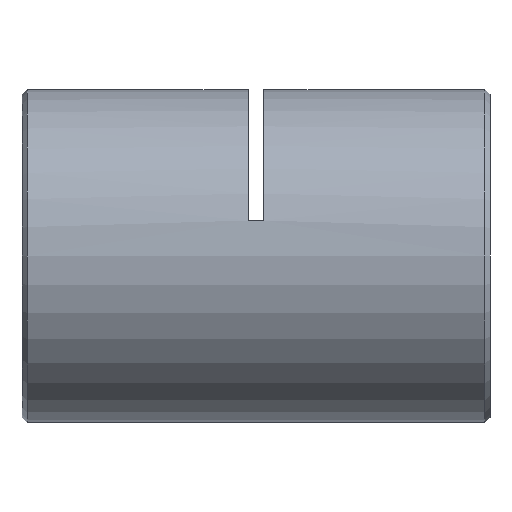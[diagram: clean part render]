
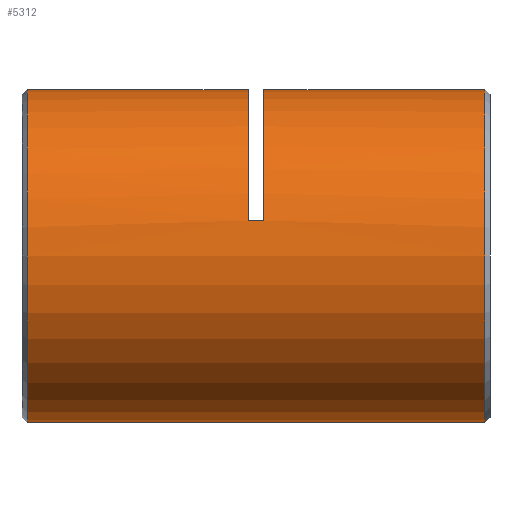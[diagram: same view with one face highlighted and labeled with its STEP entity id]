
A CAD part, left-side view. The second image highlights one B-rep face of the part: STEP entity #5312.
In plain terms, the highlighted cylindrical face has radius 16 mm (diameter 32 mm), a partial arc.
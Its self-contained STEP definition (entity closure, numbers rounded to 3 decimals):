
#12 = CARTESIAN_POINT ( 'NONE',  ( 0., 0.75, 0. ) ) ;
#193 = VECTOR ( 'NONE', #4577, 1000. ) ;
#409 = ORIENTED_EDGE ( 'NONE', *, *, #4160, .T. ) ;
#427 = CIRCLE ( 'NONE', #4013, 16. ) ;
#582 = CARTESIAN_POINT ( 'NONE',  ( 0., 23.5, 0. ) ) ;
#602 = VERTEX_POINT ( 'NONE', #4469 ) ;
#822 = CARTESIAN_POINT ( 'NONE',  ( 0., 0., 0. ) ) ;
#914 = ORIENTED_EDGE ( 'NONE', *, *, #4465, .T. ) ;
#927 = CARTESIAN_POINT ( 'NONE',  ( -15.632, 22.75, 3.413 ) ) ;
#969 = VERTEX_POINT ( 'NONE', #5789 ) ;
#983 = DIRECTION ( 'NONE',  ( 0., 1., 0. ) ) ;
#993 = AXIS2_PLACEMENT_3D ( 'NONE', #12, #3927, #1082 ) ;
#1026 = EDGE_CURVE ( 'NONE', #3213, #3868, #3971, .T. ) ;
#1082 = DIRECTION ( 'NONE',  ( 0., 0., 1. ) ) ;
#1122 = CARTESIAN_POINT ( 'NONE',  ( 0., 0., -16. ) ) ;
#1217 = ORIENTED_EDGE ( 'NONE', *, *, #1026, .F. ) ;
#1226 = EDGE_CURVE ( 'NONE', #969, #2057, #4385, .T. ) ;
#1297 = CARTESIAN_POINT ( 'NONE',  ( 0., 22., 0. ) ) ;
#1324 = DIRECTION ( 'NONE',  ( 0., 1., 0. ) ) ;
#1594 = LINE ( 'NONE', #1122, #193 ) ;
#1606 = VERTEX_POINT ( 'NONE', #3238 ) ;
#1641 = CARTESIAN_POINT ( 'NONE',  ( 0., 22., 16. ) ) ;
#1679 = EDGE_LOOP ( 'NONE', ( #4082, #3734, #4020, #1217, #4227, #2363, #914, #409 ) ) ;
#1695 = LINE ( 'NONE', #2805, #4978 ) ;
#1742 = DIRECTION ( 'NONE',  ( 0., 0., 1. ) ) ;
#1767 = AXIS2_PLACEMENT_3D ( 'NONE', #822, #5245, #1742 ) ;
#1778 = FACE_OUTER_BOUND ( 'NONE', #1679, .T. ) ;
#1801 = DIRECTION ( 'NONE',  ( 0., 1., 0. ) ) ;
#1860 = VECTOR ( 'NONE', #5963, 1000. ) ;
#1868 = LINE ( 'NONE', #3965, #1860 ) ;
#1876 = CIRCLE ( 'NONE', #3621, 16. ) ;
#1980 = DIRECTION ( 'NONE',  ( 0., -1., 0. ) ) ;
#2006 = VERTEX_POINT ( 'NONE', #3691 ) ;
#2057 = VERTEX_POINT ( 'NONE', #5161 ) ;
#2105 = AXIS2_PLACEMENT_3D ( 'NONE', #1297, #1801, #2834 ) ;
#2363 = ORIENTED_EDGE ( 'NONE', *, *, #5665, .T. ) ;
#2423 = VERTEX_POINT ( 'NONE', #4735 ) ;
#2664 = DIRECTION ( 'NONE',  ( 0., 1., 0. ) ) ;
#2735 = CARTESIAN_POINT ( 'NONE',  ( -15.632, 22., 3.413 ) ) ;
#2805 = CARTESIAN_POINT ( 'NONE',  ( 0., 0., 16. ) ) ;
#2834 = DIRECTION ( 'NONE',  ( 0., 0., 1. ) ) ;
#2910 = LINE ( 'NONE', #927, #6311 ) ;
#3075 = DIRECTION ( 'NONE',  ( 0., 0., 1. ) ) ;
#3162 = EDGE_CURVE ( 'NONE', #969, #602, #1594, .T. ) ;
#3213 = VERTEX_POINT ( 'NONE', #2735 ) ;
#3238 = CARTESIAN_POINT ( 'NONE',  ( -15.632, 23.5, 3.413 ) ) ;
#3621 = AXIS2_PLACEMENT_3D ( 'NONE', #582, #2664, #3075 ) ;
#3691 = CARTESIAN_POINT ( 'NONE',  ( 0., 23.5, 16. ) ) ;
#3734 = ORIENTED_EDGE ( 'NONE', *, *, #1226, .T. ) ;
#3868 = VERTEX_POINT ( 'NONE', #1641 ) ;
#3927 = DIRECTION ( 'NONE',  ( 0., 1., 0. ) ) ;
#3965 = CARTESIAN_POINT ( 'NONE',  ( 0., 0., 16. ) ) ;
#3971 = CIRCLE ( 'NONE', #2105, 16. ) ;
#4013 = AXIS2_PLACEMENT_3D ( 'NONE', #4463, #1980, #5972 ) ;
#4020 = ORIENTED_EDGE ( 'NONE', *, *, #5730, .T. ) ;
#4082 = ORIENTED_EDGE ( 'NONE', *, *, #3162, .F. ) ;
#4103 = EDGE_CURVE ( 'NONE', #3213, #1606, #2910, .T. ) ;
#4160 = EDGE_CURVE ( 'NONE', #2423, #602, #427, .T. ) ;
#4227 = ORIENTED_EDGE ( 'NONE', *, *, #4103, .T. ) ;
#4385 = CIRCLE ( 'NONE', #993, 16. ) ;
#4463 = CARTESIAN_POINT ( 'NONE',  ( 0., 44.75, 0. ) ) ;
#4465 = EDGE_CURVE ( 'NONE', #2006, #2423, #1868, .T. ) ;
#4469 = CARTESIAN_POINT ( 'NONE',  ( 0., 44.75, -16. ) ) ;
#4577 = DIRECTION ( 'NONE',  ( 0., 1., 0. ) ) ;
#4735 = CARTESIAN_POINT ( 'NONE',  ( 0., 44.75, 16. ) ) ;
#4978 = VECTOR ( 'NONE', #1324, 1000. ) ;
#5161 = CARTESIAN_POINT ( 'NONE',  ( 0., 0.75, 16. ) ) ;
#5245 = DIRECTION ( 'NONE',  ( 0., 1., 0. ) ) ;
#5312 = ADVANCED_FACE ( 'NONE', ( #1778 ), #6285, .T. ) ;
#5665 = EDGE_CURVE ( 'NONE', #1606, #2006, #1876, .T. ) ;
#5730 = EDGE_CURVE ( 'NONE', #2057, #3868, #1695, .T. ) ;
#5789 = CARTESIAN_POINT ( 'NONE',  ( 0., 0.75, -16. ) ) ;
#5963 = DIRECTION ( 'NONE',  ( 0., 1., 0. ) ) ;
#5972 = DIRECTION ( 'NONE',  ( 0., 0., -1. ) ) ;
#6285 = CYLINDRICAL_SURFACE ( 'NONE', #1767, 16. ) ;
#6311 = VECTOR ( 'NONE', #983, 1000. ) ;
